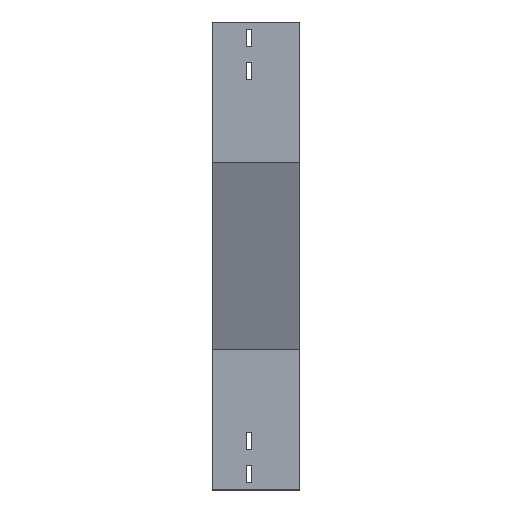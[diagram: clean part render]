
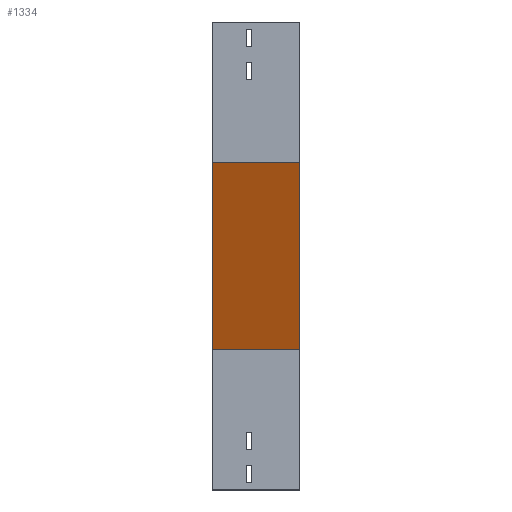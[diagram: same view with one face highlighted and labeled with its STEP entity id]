
A CAD part, left-side view. The second image highlights one B-rep face of the part: STEP entity #1334.
In plain terms, the highlighted planar face has unit normal (-0.923, 0, -0.385).
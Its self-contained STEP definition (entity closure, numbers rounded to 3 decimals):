
#114 = EDGE_CURVE ( 'NONE', #1239, #3048, #3297, .T. ) ;
#318 = EDGE_CURVE ( 'NONE', #2179, #2990, #2945, .T. ) ;
#632 = ORIENTED_EDGE ( 'NONE', *, *, #318, .F. ) ;
#842 = DIRECTION ( 'NONE',  ( 0.385, 0., -0.923 ) ) ;
#1121 = ORIENTED_EDGE ( 'NONE', *, *, #114, .F. ) ;
#1173 = EDGE_CURVE ( 'NONE', #1239, #2990, #2058, .T. ) ;
#1202 = CARTESIAN_POINT ( 'NONE',  ( 0., 112.5, -180. ) ) ;
#1239 = VERTEX_POINT ( 'NONE', #1202 ) ;
#1314 = CARTESIAN_POINT ( 'NONE',  ( 0., 0., -180. ) ) ;
#1334 = ADVANCED_FACE ( 'NONE', ( #1820 ), #2122, .F. ) ;
#1353 = CARTESIAN_POINT ( 'NONE',  ( 100., 0., -420. ) ) ;
#1379 = VECTOR ( 'NONE', #842, 1000. ) ;
#1404 = CARTESIAN_POINT ( 'NONE',  ( 100., 0., -420. ) ) ;
#1820 = FACE_OUTER_BOUND ( 'NONE', #2408, .T. ) ;
#1827 = VECTOR ( 'NONE', #2019, 1000. ) ;
#1999 = CARTESIAN_POINT ( 'NONE',  ( 0., 112.5, -180. ) ) ;
#2009 = CARTESIAN_POINT ( 'NONE',  ( 100., 112.5, -420. ) ) ;
#2019 = DIRECTION ( 'NONE',  ( 0.385, 0., -0.923 ) ) ;
#2058 = LINE ( 'NONE', #1999, #1827 ) ;
#2112 = DIRECTION ( 'NONE',  ( 0., 1., 0. ) ) ;
#2122 = PLANE ( 'NONE',  #2806 ) ;
#2132 = CARTESIAN_POINT ( 'NONE',  ( 0., 0., -180. ) ) ;
#2179 = VERTEX_POINT ( 'NONE', #1404 ) ;
#2356 = DIRECTION ( 'NONE',  ( 0.385, 0., -0.923 ) ) ;
#2374 = VECTOR ( 'NONE', #2112, 1000. ) ;
#2408 = EDGE_LOOP ( 'NONE', ( #3108, #1121, #2448, #632 ) ) ;
#2448 = ORIENTED_EDGE ( 'NONE', *, *, #1173, .T. ) ;
#2752 = DIRECTION ( 'NONE',  ( 0., -1., 0. ) ) ;
#2806 = AXIS2_PLACEMENT_3D ( 'NONE', #2934, #3575, #2356 ) ;
#2903 = VECTOR ( 'NONE', #2752, 1000. ) ;
#2934 = CARTESIAN_POINT ( 'NONE',  ( 0., 0., -180. ) ) ;
#2945 = LINE ( 'NONE', #1353, #2374 ) ;
#2990 = VERTEX_POINT ( 'NONE', #2009 ) ;
#3048 = VERTEX_POINT ( 'NONE', #2132 ) ;
#3080 = LINE ( 'NONE', #3358, #1379 ) ;
#3108 = ORIENTED_EDGE ( 'NONE', *, *, #3269, .F. ) ;
#3269 = EDGE_CURVE ( 'NONE', #3048, #2179, #3080, .T. ) ;
#3297 = LINE ( 'NONE', #1314, #2903 ) ;
#3358 = CARTESIAN_POINT ( 'NONE',  ( 0., 0., -180. ) ) ;
#3575 = DIRECTION ( 'NONE',  ( 0.923, 0., 0.385 ) ) ;
